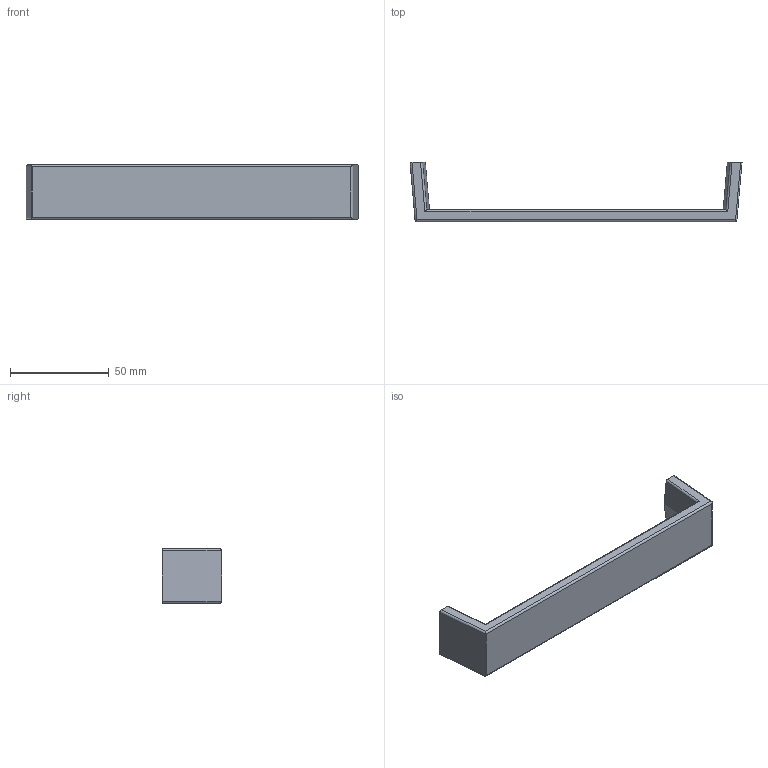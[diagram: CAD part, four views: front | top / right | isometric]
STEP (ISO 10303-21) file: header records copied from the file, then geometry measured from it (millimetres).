
FILE_DESCRIPTION( ( '' ), '1' );
FILE_NAME( 'D:/1.AUTOCAD EXPORT/Group 10/sheet_10_1/ 9113510.stp', '2013-10-16T12:44:51', ( '' ), ( '' ), ' ', ' ', ' ' );
FILE_SCHEMA( ( 'automotive_design' ) );
Length unit declared in the file: millimetre
Products named in the file (1): 1
Bounding box: 167.7 x 30 x 27.6 mm (x, y, z)
Volume: 33642.6 mm3; surface area: 14417.1 mm2
Topology: 1 solids, 1 shells, 36 faces, 96 edges, 64 vertices
Faces by surface type: cylinder 21, plane 15
Entity records: 2304 total; most frequent: CARTESIAN_POINT 263, DIRECTION 202, STYLED_ITEM 197, PRESENTATION_STYLE_ASSIGNMENT 197, COLOUR_RGB 197, ORIENTED_EDGE 192, EDGE_CURVE 96, CURVE_STYLE 96
